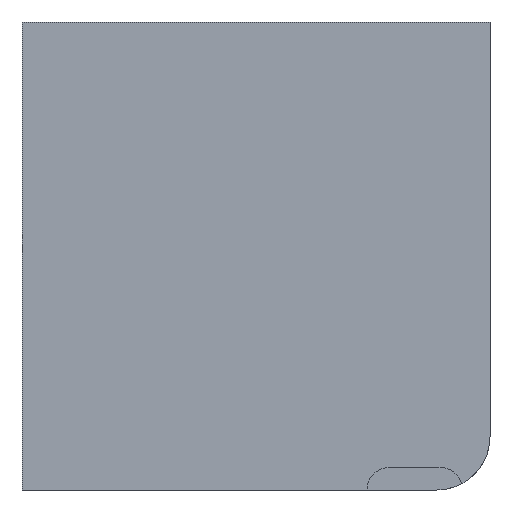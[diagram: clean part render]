
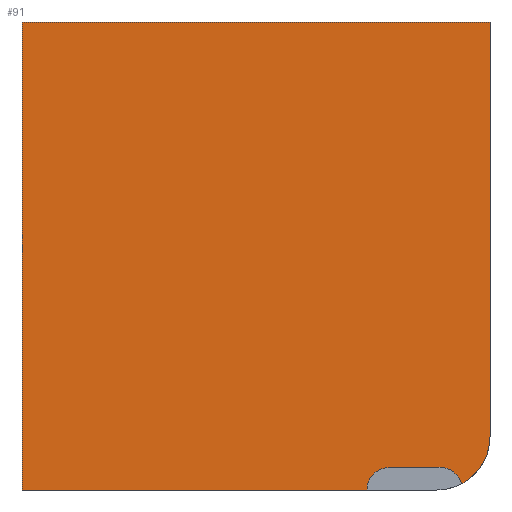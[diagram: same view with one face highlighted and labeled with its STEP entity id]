
A CAD part, left-side view. The second image highlights one B-rep face of the part: STEP entity #91.
In plain terms, the highlighted planar face has unit normal (-1, 0, 0).
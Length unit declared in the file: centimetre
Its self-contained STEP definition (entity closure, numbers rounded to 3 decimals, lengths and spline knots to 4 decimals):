
#4 = CIRCLE ( 'NONE', #546, 113.8481 ) ;
#16 = EDGE_CURVE ( 'NONE', #305, #695, #341, .T. ) ;
#21 = CARTESIAN_POINT ( 'NONE',  ( 0., 214.6843, 48.3138 ) ) ;
#37 = CARTESIAN_POINT ( 'NONE',  ( 0., 1000., 0. ) ) ;
#38 = VECTOR ( 'NONE', #105, 100. ) ;
#62 = DIRECTION ( 'NONE',  ( 0., 0., -1. ) ) ;
#71 = DIRECTION ( 'NONE',  ( 0., 0., -1. ) ) ;
#88 = LINE ( 'NONE', #728, #935 ) ;
#91 = ADVANCED_FACE ( 'NONE', ( #767 ), #420, .F. ) ;
#92 = VERTEX_POINT ( 'NONE', #137 ) ;
#105 = DIRECTION ( 'NONE',  ( 0., -1., 0. ) ) ;
#108 = VERTEX_POINT ( 'NONE', #346 ) ;
#123 = EDGE_CURVE ( 'NONE', #832, #833, #319, .T. ) ;
#137 = CARTESIAN_POINT ( 'NONE',  ( 0., 0., 113.8481 ) ) ;
#165 = ORIENTED_EDGE ( 'NONE', *, *, #123, .F. ) ;
#226 = CARTESIAN_POINT ( 'NONE',  ( 0., 106.8339, 0. ) ) ;
#236 = ORIENTED_EDGE ( 'NONE', *, *, #433, .T. ) ;
#237 = DIRECTION ( 'NONE',  ( 0., 0., -1. ) ) ;
#238 = EDGE_CURVE ( 'NONE', #939, #833, #834, .T. ) ;
#243 = CIRCLE ( 'NONE', #656, 48.3138 ) ;
#248 = ORIENTED_EDGE ( 'NONE', *, *, #238, .T. ) ;
#258 = AXIS2_PLACEMENT_3D ( 'NONE', #273, #708, #350 ) ;
#267 = AXIS2_PLACEMENT_3D ( 'NONE', #911, #481, #854 ) ;
#273 = CARTESIAN_POINT ( 'NONE',  ( 0., 214.6843, 0. ) ) ;
#278 = EDGE_CURVE ( 'NONE', #108, #832, #844, .T. ) ;
#294 = CARTESIAN_POINT ( 'NONE',  ( 0., 60.395, 13.3287 ) ) ;
#305 = VERTEX_POINT ( 'NONE', #548 ) ;
#319 = CIRCLE ( 'NONE', #258, 48.3138 ) ;
#341 = LINE ( 'NONE', #555, #503 ) ;
#346 = CARTESIAN_POINT ( 'NONE',  ( 0., 106.8339, 48.3138 ) ) ;
#350 = DIRECTION ( 'NONE',  ( 0., 0., -1. ) ) ;
#369 = CARTESIAN_POINT ( 'NONE',  ( 0., 1000., 0. ) ) ;
#382 = DIRECTION ( 'NONE',  ( 0., 0., -1. ) ) ;
#398 = VERTEX_POINT ( 'NONE', #294 ) ;
#420 = PLANE ( 'NONE',  #267 ) ;
#433 = EDGE_CURVE ( 'NONE', #398, #92, #4, .T. ) ;
#444 = EDGE_LOOP ( 'NONE', ( #739, #769, #236, #746, #535, #757, #248, #165 ) ) ;
#461 = DIRECTION ( 'NONE',  ( 0., 1., 0. ) ) ;
#481 = DIRECTION ( 'NONE',  ( 1., 0., 0. ) ) ;
#483 = CARTESIAN_POINT ( 'NONE',  ( 0., 262.9981, 0. ) ) ;
#489 = DIRECTION ( 'NONE',  ( 0., -1., 0. ) ) ;
#503 = VECTOR ( 'NONE', #489, 100. ) ;
#505 = LINE ( 'NONE', #874, #878 ) ;
#535 = ORIENTED_EDGE ( 'NONE', *, *, #16, .F. ) ;
#546 = AXIS2_PLACEMENT_3D ( 'NONE', #579, #786, #62 ) ;
#548 = CARTESIAN_POINT ( 'NONE',  ( 0., 1000., 1000. ) ) ;
#555 = CARTESIAN_POINT ( 'NONE',  ( 0., 1000., 1000. ) ) ;
#579 = CARTESIAN_POINT ( 'NONE',  ( 0., 113.8481, 113.8481 ) ) ;
#586 = DIRECTION ( 'NONE',  ( -1., 0., 0. ) ) ;
#589 = EDGE_CURVE ( 'NONE', #398, #108, #243, .T. ) ;
#621 = EDGE_CURVE ( 'NONE', #695, #92, #505, .T. ) ;
#637 = EDGE_CURVE ( 'NONE', #305, #939, #88, .T. ) ;
#656 = AXIS2_PLACEMENT_3D ( 'NONE', #226, #586, #237 ) ;
#684 = CARTESIAN_POINT ( 'NONE',  ( 0., 0., 1000. ) ) ;
#689 = CARTESIAN_POINT ( 'NONE',  ( 0., 214.6843, 48.3138 ) ) ;
#695 = VERTEX_POINT ( 'NONE', #684 ) ;
#708 = DIRECTION ( 'NONE',  ( -1., 0., 0. ) ) ;
#726 = VECTOR ( 'NONE', #461, 100. ) ;
#728 = CARTESIAN_POINT ( 'NONE',  ( 0., 1000., 1000. ) ) ;
#739 = ORIENTED_EDGE ( 'NONE', *, *, #278, .F. ) ;
#746 = ORIENTED_EDGE ( 'NONE', *, *, #621, .F. ) ;
#757 = ORIENTED_EDGE ( 'NONE', *, *, #637, .T. ) ;
#767 = FACE_OUTER_BOUND ( 'NONE', #444, .T. ) ;
#769 = ORIENTED_EDGE ( 'NONE', *, *, #589, .F. ) ;
#786 = DIRECTION ( 'NONE',  ( -1., 0., 0. ) ) ;
#832 = VERTEX_POINT ( 'NONE', #689 ) ;
#833 = VERTEX_POINT ( 'NONE', #483 ) ;
#834 = LINE ( 'NONE', #37, #38 ) ;
#844 = LINE ( 'NONE', #21, #726 ) ;
#854 = DIRECTION ( 'NONE',  ( 0., 0., -1. ) ) ;
#874 = CARTESIAN_POINT ( 'NONE',  ( 0., 0., 1000. ) ) ;
#878 = VECTOR ( 'NONE', #382, 100. ) ;
#911 = CARTESIAN_POINT ( 'NONE',  ( 0., 1000., 1000. ) ) ;
#935 = VECTOR ( 'NONE', #71, 100. ) ;
#939 = VERTEX_POINT ( 'NONE', #369 ) ;
